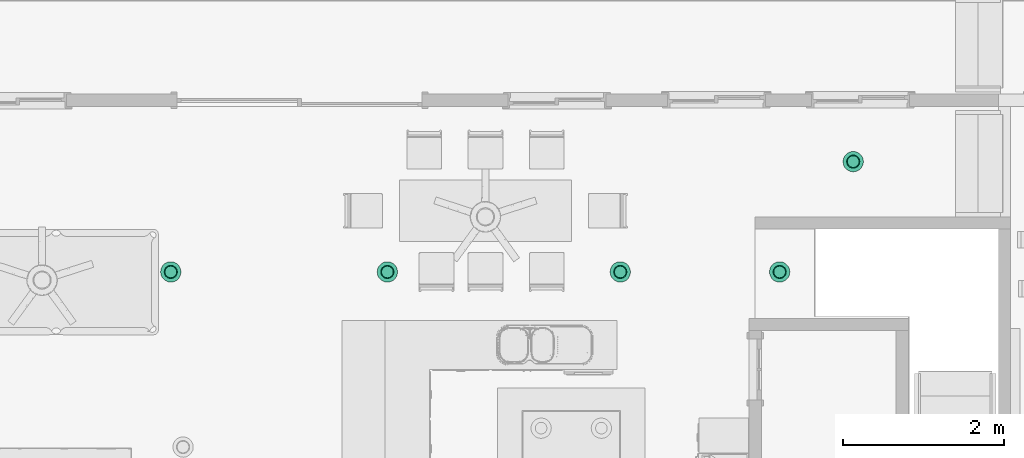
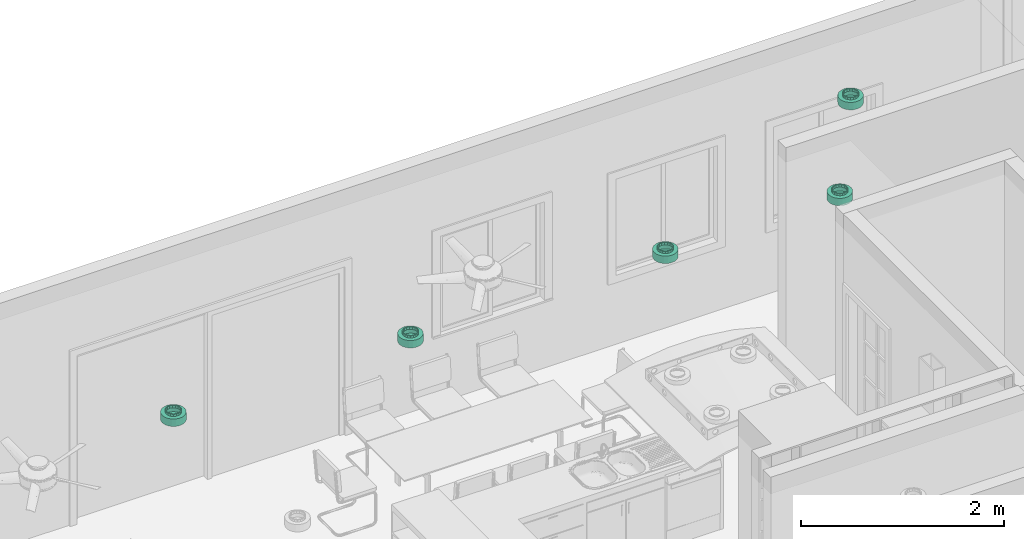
# One storey, part 16 of 21: 5 flow terminals.
"""IFC2X3 building model written with IfcOpenShell, lengths in feet."""

from ifc_helpers import new_model, entity, si_unit, converted_unit, derived_unit, direction, frame, origin, place, context, subcontext, project, spatial, faceted_brep, source, transform, mapped, material, material_list, type_object, type_shapes, element, save


model = new_model("IFC2X3")

# Units and contexts
model_context = context("Model", 3, precision=0.0001, world=origin(), true_north=direction((6.12303176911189e-17, 1.0)))
body_context = subcontext(model_context, "Body", "Model", "MODEL_VIEW")
ifc_project = project(units=[converted_unit("LENGTHUNIT", "FOOT", entity("IfcRatioMeasure", 0.3048), si_unit("LENGTHUNIT", "METRE"), dimensions=[1, 0, 0, 0, 0, 0, 0]), converted_unit("AREAUNIT", "SQUARE FOOT", entity("IfcRatioMeasure", 0.09290304), si_unit("AREAUNIT", "SQUARE_METRE"), dimensions=[2, 0, 0, 0, 0, 0, 0]), converted_unit("VOLUMEUNIT", "CUBIC FOOT", entity("IfcRatioMeasure", 0.028316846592), si_unit("VOLUMEUNIT", "CUBIC_METRE"), dimensions=[3, 0, 0, 0, 0, 0, 0]), converted_unit("PLANEANGLEUNIT", "DEGREE", entity("IfcRatioMeasure", 0.0174532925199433), si_unit("PLANEANGLEUNIT", "RADIAN"), dimensions=[0, 0, 0, 0, 0, 0, 0]), si_unit("MASSUNIT", "GRAM", prefix="KILO"), derived_unit("MASSDENSITYUNIT", [(si_unit("MASSUNIT", "GRAM", prefix="KILO"), 1), (si_unit("LENGTHUNIT", "METRE"), -3)]), si_unit("TIMEUNIT", "SECOND"), si_unit("FREQUENCYUNIT", "HERTZ"), si_unit("THERMODYNAMICTEMPERATUREUNIT", "DEGREE_CELSIUS"), derived_unit("THERMALTRANSMITTANCEUNIT", [(si_unit("MASSUNIT", "GRAM", prefix="KILO"), 1), (si_unit("THERMODYNAMICTEMPERATUREUNIT", "KELVIN"), -1), (si_unit("TIMEUNIT", "SECOND"), -3)]), derived_unit("VOLUMETRICFLOWRATEUNIT", [(si_unit("LENGTHUNIT", "METRE"), 3), (si_unit("TIMEUNIT", "SECOND"), -1)]), si_unit("ELECTRICCURRENTUNIT", "AMPERE"), si_unit("ELECTRICVOLTAGEUNIT", "VOLT"), si_unit("POWERUNIT", "WATT"), si_unit("FORCEUNIT", "NEWTON"), si_unit("ILLUMINANCEUNIT", "LUX"), si_unit("LUMINOUSFLUXUNIT", "LUMEN"), si_unit("LUMINOUSINTENSITYUNIT", "CANDELA"), derived_unit("USERDEFINED", [(si_unit("MASSUNIT", "GRAM", prefix="KILO"), -1), (si_unit("LENGTHUNIT", "METRE"), -2), (si_unit("TIMEUNIT", "SECOND"), 3), (si_unit("LUMINOUSFLUXUNIT", "LUMEN"), 1)]), derived_unit("LINEARVELOCITYUNIT", [(si_unit("LENGTHUNIT", "METRE"), 1), (si_unit("TIMEUNIT", "SECOND"), -1)]), si_unit("PRESSUREUNIT", "PASCAL"), derived_unit("USERDEFINED", [(si_unit("LENGTHUNIT", "METRE"), -2), (si_unit("MASSUNIT", "GRAM", prefix="KILO"), 1), (si_unit("TIMEUNIT", "SECOND"), -2)])], contexts=[model_context])

# Site, building, storey
site_placement = place(None, origin())
site = spatial("IfcSite", under=ifc_project, at=site_placement, Name="表面", CompositionType="ELEMENT")
building_placement = place(site_placement, origin())
building = spatial("IfcBuilding", under=site, at=building_placement, CompositionType="ELEMENT")
storey_placement = place(building_placement, origin())
storey = spatial("IfcBuildingStorey", under=building, at=storey_placement, Name="Level 1", CompositionType="ELEMENT", Elevation=0.0)

# Flow terminals
ifc_material_1 = material(Name="Metal - Paint Finish - Dark Gray, Matte")
ifc_material_2 = material(Name="Glass - White, High Luminance")
ifc_material_list_1 = material_list([ifc_material_1, ifc_material_2])
ifc_material_list_2 = material_list([ifc_material_1, ifc_material_2])
light_fixture_type = type_object("IfcLightFixtureType", Name="100W - 120V", PredefinedType="NOTDEFINED", material=ifc_material_list_2)
shared_shape = source(origin(), body_context, "Body", "Brep", [
    faceted_brep([(0.557291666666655, 0.187326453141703, 0.374999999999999), (0.598651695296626, 0.245098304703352, 0.374999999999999), (0.558098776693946, 0.218001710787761, 0.374999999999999), (0.629345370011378, 0.247786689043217, 0.374999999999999), (0.517545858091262, 0.190905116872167, 0.374999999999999), (0.468904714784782, 0.155156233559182, 0.374999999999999), (0.625748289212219, 0.285651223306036, 0.374999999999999), (0.65284488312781, 0.326204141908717, 0.374999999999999), (0.676375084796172, 0.329244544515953, 0.374999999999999), (0.6623599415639, 0.374039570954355, 0.374999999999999), (0.671874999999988, 0.42187499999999, 0.374999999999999), (0.692708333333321, 0.421874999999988, 0.374999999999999), (0.676375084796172, 0.514505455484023, 0.374999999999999), (0.662359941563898, 0.469710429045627, 0.374999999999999), (0.652844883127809, 0.517545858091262, 0.374999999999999), (0.629345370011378, 0.595963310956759, 0.374999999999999), (0.625748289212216, 0.558098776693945, 0.374999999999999), (0.598651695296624, 0.598651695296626, 0.374999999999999), (0.557291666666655, 0.656423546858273, 0.374999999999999), (0.55809877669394, 0.625748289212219, 0.374999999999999), (0.517545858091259, 0.65284488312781, 0.374999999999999), (0.468904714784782, 0.688593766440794, 0.374999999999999), (0.469710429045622, 0.662359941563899, 0.374999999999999), (0.421874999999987, 0.671874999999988, 0.374999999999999), (0.374845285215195, 0.688593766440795, 0.374999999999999), (0.374039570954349, 0.662359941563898, 0.374999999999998), (0.326204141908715, 0.652844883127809, 0.374999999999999), (0.286458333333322, 0.656423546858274, 0.374999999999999), (0.285651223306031, 0.625748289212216, 0.374999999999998), (0.245098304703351, 0.598651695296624, 0.374999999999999), (0.214404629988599, 0.59596331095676, 0.374999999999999), (0.218001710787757, 0.558098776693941, 0.374999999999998), (0.190905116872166, 0.51754585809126, 0.374999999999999), (0.167374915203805, 0.514505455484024, 0.374999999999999), (0.181390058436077, 0.469710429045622, 0.374999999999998), (0.171874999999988, 0.421874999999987, 0.374999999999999), (0.151041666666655, 0.421874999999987, 0.374999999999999), (0.167374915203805, 0.329244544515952, 0.374999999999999), (0.181390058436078, 0.374039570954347, 0.374999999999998), (0.190905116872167, 0.326204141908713, 0.374999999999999), (0.214404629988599, 0.247786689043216, 0.374999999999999), (0.218001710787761, 0.28565122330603, 0.374999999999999), (0.245098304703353, 0.245098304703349, 0.374999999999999), (0.286458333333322, 0.187326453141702, 0.374999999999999), (0.285651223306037, 0.218001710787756, 0.374999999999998), (0.326204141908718, 0.190905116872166, 0.374999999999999), (0.374845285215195, 0.155156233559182, 0.374999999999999), (0.42187499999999, 0.171874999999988, 0.374999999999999), (0.374039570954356, 0.181390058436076, 0.374999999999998), (0.469710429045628, 0.181390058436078, 0.374999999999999), (0.557291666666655, 0.656423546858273, 0.291666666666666), (0.598651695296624, 0.598651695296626, 0.291666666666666), (0.55809877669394, 0.625748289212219, 0.291666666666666), (0.629345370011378, 0.595963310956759, 0.291666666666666), (0.517545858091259, 0.65284488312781, 0.291666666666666), (0.468904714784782, 0.688593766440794, 0.291666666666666), (0.625748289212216, 0.558098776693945, 0.291666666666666), (0.652844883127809, 0.517545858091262, 0.291666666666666), (0.676375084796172, 0.514505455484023, 0.291666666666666), (0.662359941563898, 0.469710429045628, 0.291666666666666), (0.671874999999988, 0.42187499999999, 0.291666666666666), (0.692708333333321, 0.421874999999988, 0.291666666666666), (0.676375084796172, 0.329244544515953, 0.291666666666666), (0.659760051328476, 0.36096904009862, 0.291666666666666), (0.65284488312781, 0.326204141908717, 0.291666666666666), (0.629345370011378, 0.247786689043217, 0.291666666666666), (0.625748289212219, 0.285651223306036, 0.291666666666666), (0.598651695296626, 0.245098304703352, 0.291666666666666), (0.557291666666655, 0.187326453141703, 0.291666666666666), (0.558098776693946, 0.218001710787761, 0.291666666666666), (0.517545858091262, 0.190905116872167, 0.291666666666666), (0.468904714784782, 0.155156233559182, 0.291666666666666), (0.469710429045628, 0.181390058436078, 0.291666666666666), (0.42187499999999, 0.171874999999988, 0.291666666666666), (0.374845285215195, 0.155156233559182, 0.291666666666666), (0.374039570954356, 0.181390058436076, 0.291666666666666), (0.326204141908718, 0.190905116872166, 0.291666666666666), (0.286458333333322, 0.187326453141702, 0.291666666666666), (0.285651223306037, 0.218001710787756, 0.291666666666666), (0.245098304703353, 0.245098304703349, 0.291666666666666), (0.214404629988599, 0.247786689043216, 0.291666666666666), (0.218001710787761, 0.28565122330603, 0.291666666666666), (0.190905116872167, 0.326204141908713, 0.291666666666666), (0.167374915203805, 0.329244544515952, 0.291666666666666), (0.181390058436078, 0.374039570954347, 0.291666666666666), (0.171874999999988, 0.421874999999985, 0.291666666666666), (0.151041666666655, 0.421874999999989, 0.291666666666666), (0.167374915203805, 0.514505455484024, 0.291666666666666), (0.183989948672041, 0.482780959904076, 0.291666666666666), (0.190905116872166, 0.51754585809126, 0.291666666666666), (0.214404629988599, 0.59596331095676, 0.291666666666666), (0.218001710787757, 0.558098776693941, 0.291666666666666), (0.245098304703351, 0.598651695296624, 0.291666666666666), (0.286458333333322, 0.656423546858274, 0.291666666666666), (0.285651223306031, 0.625748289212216, 0.291666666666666), (0.326204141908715, 0.652844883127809, 0.291666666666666), (0.374845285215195, 0.688593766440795, 0.291666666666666), (0.421874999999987, 0.671874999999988, 0.291666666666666), (0.374039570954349, 0.662359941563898, 0.291666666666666), (0.469710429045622, 0.662359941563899, 0.291666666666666)], [[[0, 1, 2]], [[1, 0, 3]], [[0, 2, 4]], [[4, 5, 0]], [[3, 6, 1]], [[3, 7, 6]], [[7, 3, 8]], [[8, 9, 7]], [[8, 10, 9]], [[10, 8, 11]], [[10, 11, 12]], [[12, 13, 10]], [[12, 14, 13]], [[15, 14, 12]], [[15, 16, 14]], [[15, 17, 16]], [[18, 17, 15]], [[18, 19, 17]], [[18, 20, 19]], [[21, 20, 18]], [[21, 22, 20]], [[21, 23, 22]], [[24, 23, 21]], [[24, 25, 23]], [[24, 26, 25]], [[27, 26, 24]], [[27, 28, 26]], [[27, 29, 28]], [[29, 27, 30]], [[30, 31, 29]], [[30, 32, 31]], [[32, 30, 33]], [[33, 34, 32]], [[33, 35, 34]], [[36, 35, 33]], [[37, 35, 36]], [[37, 38, 35]], [[37, 39, 38]], [[39, 37, 40]], [[40, 41, 39]], [[40, 42, 41]], [[42, 40, 43]], [[43, 44, 42]], [[43, 45, 44]], [[45, 43, 46]], [[47, 46, 5]], [[46, 47, 48]], [[46, 48, 45]], [[5, 4, 49]], [[5, 49, 47]], [[50, 51, 52]], [[51, 50, 53]], [[50, 52, 54]], [[54, 55, 50]], [[53, 56, 51]], [[53, 57, 56]], [[57, 53, 58]], [[58, 59, 57]], [[58, 60, 59]], [[60, 58, 61]], [[60, 61, 62]], [[62, 63, 60]], [[62, 64, 63]], [[65, 64, 62]], [[65, 66, 64]], [[65, 67, 66]], [[68, 67, 65]], [[68, 69, 67]], [[68, 70, 69]], [[71, 70, 68]], [[71, 72, 70]], [[71, 73, 72]], [[74, 73, 71]], [[74, 75, 73]], [[74, 76, 75]], [[77, 76, 74]], [[77, 78, 76]], [[77, 79, 78]], [[79, 77, 80]], [[80, 81, 79]], [[80, 82, 81]], [[82, 80, 83]], [[83, 84, 82]], [[83, 85, 84]], [[86, 85, 83]], [[87, 85, 86]], [[87, 88, 85]], [[87, 89, 88]], [[89, 87, 90]], [[90, 91, 89]], [[90, 92, 91]], [[92, 90, 93]], [[93, 94, 92]], [[93, 95, 94]], [[95, 93, 96]], [[97, 96, 55]], [[96, 97, 98]], [[96, 98, 95]], [[55, 54, 99]], [[55, 99, 97]], [[37, 36, 86, 83]], [[43, 40, 80, 77]], [[83, 80, 40, 37]], [[77, 74, 46, 43]], [[74, 71, 5, 46]], [[0, 5, 71, 68]], [[8, 3, 65, 62]], [[68, 65, 3, 0]], [[62, 61, 11, 8]], [[12, 11, 61, 58]], [[18, 15, 53, 50]], [[58, 53, 15, 12]], [[50, 55, 21, 18]], [[55, 96, 24, 21]], [[27, 24, 96, 93]], [[87, 33, 30, 90]], [[90, 30, 27, 93]], [[33, 87, 86, 36]], [[34, 35, 85, 88, 89, 32]], [[89, 91, 92, 29, 31, 32]], [[59, 60, 10, 13, 14, 57]], [[92, 94, 95, 26, 28, 29]], [[23, 25, 26, 95, 98, 97]], [[97, 99, 54, 20, 22, 23]], [[16, 17, 51, 56, 57, 14]], [[54, 52, 51, 17, 19, 20]], [[9, 10, 60, 63, 64, 7]], [[64, 66, 67, 1, 6, 7]], [[84, 85, 35, 38, 39, 82]], [[67, 69, 70, 4, 2, 1]], [[47, 49, 4, 70, 72, 73]], [[73, 75, 76, 45, 48, 47]], [[41, 42, 79, 81, 82, 39]], [[76, 78, 79, 42, 44, 45]]]),
    faceted_brep([(0.671874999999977, 0.421874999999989, 0.291666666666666), (0.838541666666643, 0.421874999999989, 0.291666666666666), (0.81814854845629, 0.550632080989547, 0.291666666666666), (0.818148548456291, 0.293117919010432, 0.291666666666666), (0.659760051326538, 0.360969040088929, 0.291666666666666), (0.662359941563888, 0.469710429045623, 0.291666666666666), (0.6528448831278, 0.326204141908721, 0.291666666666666), (0.758965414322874, 0.176964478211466, 0.291666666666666), (0.625748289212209, 0.28565122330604, 0.291666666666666), (0.598651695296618, 0.24509830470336, 0.291666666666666), (0.666785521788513, 0.084784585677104, 0.291666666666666), (0.558098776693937, 0.218001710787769, 0.291666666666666), (0.517545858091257, 0.190905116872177, 0.291666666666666), (0.550632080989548, 0.025601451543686, 0.291666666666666), (0.469710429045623, 0.181390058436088, 0.291666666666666), (0.421874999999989, 0.171874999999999, 0.291666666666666), (0.42187499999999, 0.00520833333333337, 0.291666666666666), (0.293117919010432, 0.0256014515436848, 0.291666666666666), (0.374039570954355, 0.181390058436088, 0.291666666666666), (0.326204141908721, 0.190905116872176, 0.291666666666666), (0.176964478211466, 0.0847845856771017, 0.291666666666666), (0.285651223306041, 0.218001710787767, 0.291666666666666), (0.24509830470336, 0.245098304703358, 0.291666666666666), (0.0847845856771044, 0.176964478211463, 0.291666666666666), (0.218001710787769, 0.285651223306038, 0.291666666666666), (0.190905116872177, 0.326204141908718, 0.291666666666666), (0.0256014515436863, 0.293117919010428, 0.291666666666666), (0.181390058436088, 0.374039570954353, 0.291666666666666), (0.171874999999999, 0.421874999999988, 0.291666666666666), (0.00520833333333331, 0.421874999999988, 0.291666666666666), (0.0256014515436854, 0.550632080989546, 0.291666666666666), (0.183989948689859, 0.482780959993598, 0.291666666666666), (0.190905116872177, 0.517545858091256, 0.291666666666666), (0.0847845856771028, 0.666785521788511, 0.291666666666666), (0.218001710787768, 0.558098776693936, 0.291666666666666), (0.245098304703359, 0.598651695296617, 0.291666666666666), (0.176964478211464, 0.758965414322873, 0.291666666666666), (0.285651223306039, 0.625748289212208, 0.291666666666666), (0.32620414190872, 0.652844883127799, 0.291666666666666), (0.29311791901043, 0.81814854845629, 0.291666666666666), (0.374039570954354, 0.662359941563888, 0.291666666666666), (0.421874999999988, 0.671874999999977, 0.291666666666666), (0.421874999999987, 0.838541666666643, 0.291666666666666), (0.550632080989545, 0.818148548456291, 0.291666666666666), (0.469710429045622, 0.662359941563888, 0.291666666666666), (0.517545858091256, 0.6528448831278, 0.291666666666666), (0.666785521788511, 0.758965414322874, 0.291666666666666), (0.558098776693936, 0.625748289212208, 0.291666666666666), (0.598651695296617, 0.598651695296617, 0.291666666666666), (0.758965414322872, 0.666785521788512, 0.291666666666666), (0.625748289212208, 0.558098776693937, 0.291666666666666), (0.652844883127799, 0.517545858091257, 0.291666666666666), (0.0256014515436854, 0.550632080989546, 0.0), (0.00520833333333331, 0.421874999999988, 0.0), (0.0847845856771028, 0.666785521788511, 0.0), (0.176964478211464, 0.758965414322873, 0.0), (0.29311791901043, 0.818148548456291, 0.0), (0.421874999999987, 0.838541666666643, 0.0), (0.550632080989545, 0.818148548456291, 0.0), (0.666785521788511, 0.758965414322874, 0.0), (0.758965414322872, 0.666785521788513, 0.0), (0.81814854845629, 0.550632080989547, 0.0), (0.838541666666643, 0.42187499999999, 0.0), (0.818148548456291, 0.293117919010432, 0.0), (0.666785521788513, 0.0847845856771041, 0.0), (0.550632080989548, 0.025601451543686, 0.0), (0.42187499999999, 0.00520833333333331, 0.0), (0.758965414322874, 0.176964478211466, 0.0), (0.293117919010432, 0.0256014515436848, 0.0), (0.176964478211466, 0.0847845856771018, 0.0), (0.0847845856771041, 0.176964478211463, 0.0), (0.025601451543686, 0.293117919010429, 0.0), (0.421874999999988, 0.421874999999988, 0.0), (0.808241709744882, 0.547413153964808, 0.0104166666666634), (0.421874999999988, 0.421874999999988, 0.0104166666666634), (0.828124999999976, 0.421874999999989, 0.0104166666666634), (0.7505381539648, 0.660662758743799, 0.0104166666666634), (0.660662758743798, 0.750538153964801, 0.0104166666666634), (0.547413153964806, 0.808241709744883, 0.0104166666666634), (0.421874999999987, 0.828124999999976, 0.0104166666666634), (0.296336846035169, 0.808241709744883, 0.0104166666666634), (0.183087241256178, 0.750538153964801, 0.0104166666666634), (0.0932118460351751, 0.660662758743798, 0.0104166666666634), (0.0355082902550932, 0.547413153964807, 0.0104166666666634), (0.0156249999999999, 0.421874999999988, 0.0104166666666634), (0.0355082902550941, 0.296336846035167, 0.0104166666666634), (0.0932118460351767, 0.183087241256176, 0.0104166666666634), (0.18308724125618, 0.093211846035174, 0.0104166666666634), (0.296336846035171, 0.0355082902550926, 0.0104166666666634), (0.42187499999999, 0.0156249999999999, 0.0104166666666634), (0.547413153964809, 0.0355082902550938, 0.0104166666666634), (0.6606627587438, 0.0932118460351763, 0.0104166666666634), (0.750538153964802, 0.183087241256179, 0.0104166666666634), (0.808241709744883, 0.296336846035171, 0.0104166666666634), (0.0355082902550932, 0.547413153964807, 0.281249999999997), (0.0156249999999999, 0.421874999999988, 0.281249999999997), (0.0932118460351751, 0.660662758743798, 0.281249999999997), (0.183087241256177, 0.750538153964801, 0.281249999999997), (0.296336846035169, 0.808241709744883, 0.281249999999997), (0.421874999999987, 0.828124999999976, 0.281249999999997), (0.660662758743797, 0.750538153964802, 0.281249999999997), (0.547413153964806, 0.808241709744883, 0.281249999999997), (0.808241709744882, 0.547413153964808, 0.281249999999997), (0.7505381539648, 0.660662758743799, 0.281249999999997), (0.828124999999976, 0.42187499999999, 0.281249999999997), (0.808241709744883, 0.296336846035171, 0.281249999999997), (0.547413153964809, 0.0355082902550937, 0.281249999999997), (0.6606627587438, 0.0932118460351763, 0.281249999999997), (0.42187499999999, 0.0156249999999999, 0.281249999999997), (0.750538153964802, 0.183087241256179, 0.281249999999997), (0.183087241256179, 0.0932118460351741, 0.281249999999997), (0.296336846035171, 0.0355082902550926, 0.281249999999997), (0.0355082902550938, 0.296336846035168, 0.281249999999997), (0.0932118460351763, 0.183087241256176, 0.281249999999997), (0.66145833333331, 0.421874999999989, 0.281249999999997), (0.650878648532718, 0.475062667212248, 0.281249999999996), (0.643221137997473, 0.513559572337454, 0.281249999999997), (0.650878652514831, 0.368687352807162, 0.281249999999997), (0.643221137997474, 0.330190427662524, 0.281249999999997), (0.617253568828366, 0.291327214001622, 0.281249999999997), (0.591285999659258, 0.25246400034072, 0.281249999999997), (0.552422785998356, 0.226496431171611, 0.281249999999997), (0.513559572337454, 0.200528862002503, 0.281249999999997), (0.467717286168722, 0.191410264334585, 0.281249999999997), (0.421874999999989, 0.182291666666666, 0.281249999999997), (0.376032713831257, 0.191410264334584, 0.281249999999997), (0.330190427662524, 0.200528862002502, 0.281249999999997), (0.291327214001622, 0.22649643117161, 0.281249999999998), (0.25246400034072, 0.252464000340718, 0.281249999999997), (0.226496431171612, 0.29132721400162, 0.281249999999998), (0.200528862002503, 0.330190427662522, 0.281249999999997), (0.191410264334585, 0.376032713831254, 0.281249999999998), (0.182291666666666, 0.421874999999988, 0.281249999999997), (0.192871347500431, 0.47506264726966, 0.281249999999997), (0.200528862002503, 0.513559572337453, 0.281249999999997), (0.226496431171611, 0.552422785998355, 0.281249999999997), (0.252464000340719, 0.591285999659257, 0.281249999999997), (0.291327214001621, 0.617253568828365, 0.281249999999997), (0.330190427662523, 0.643221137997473, 0.281249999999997), (0.376032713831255, 0.652339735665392, 0.281249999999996), (0.421874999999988, 0.66145833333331, 0.281249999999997), (0.46771728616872, 0.652339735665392, 0.281249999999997), (0.513559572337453, 0.643221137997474, 0.281249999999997), (0.591285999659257, 0.591285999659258, 0.281249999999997), (0.552422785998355, 0.617253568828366, 0.281249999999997), (0.617253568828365, 0.552422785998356, 0.281249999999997), (0.191410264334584, 0.467717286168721, 0.375), (0.182291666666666, 0.421874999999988, 0.375), (0.200528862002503, 0.513559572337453, 0.375), (0.252464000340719, 0.591285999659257, 0.375), (0.226496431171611, 0.552422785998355, 0.375), (0.330190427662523, 0.643221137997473, 0.375), (0.291327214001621, 0.617253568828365, 0.375), (0.421874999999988, 0.66145833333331, 0.375), (0.376032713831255, 0.652339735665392, 0.375), (0.552422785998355, 0.617253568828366, 0.375), (0.513559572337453, 0.643221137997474, 0.375), (0.591285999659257, 0.591285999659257, 0.375), (0.643221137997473, 0.513559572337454, 0.375), (0.617253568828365, 0.552422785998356, 0.375), (0.46771728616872, 0.652339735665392, 0.375), (0.652339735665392, 0.467717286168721, 0.375), (0.66145833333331, 0.421874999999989, 0.375), (0.652339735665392, 0.376032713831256, 0.375), (0.643221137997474, 0.330190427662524, 0.375), (0.591285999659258, 0.25246400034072, 0.375), (0.617253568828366, 0.291327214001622, 0.375), (0.513559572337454, 0.200528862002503, 0.375), (0.552422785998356, 0.226496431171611, 0.375), (0.421874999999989, 0.182291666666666, 0.375), (0.467717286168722, 0.191410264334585, 0.375), (0.200528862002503, 0.330190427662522, 0.375), (0.192871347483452, 0.368687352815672, 0.375), (0.25246400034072, 0.252464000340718, 0.375), (0.291327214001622, 0.22649643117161, 0.375), (0.330190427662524, 0.200528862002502, 0.375), (0.226496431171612, 0.29132721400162, 0.375), (0.376032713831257, 0.191410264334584, 0.375), (0.671874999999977, 0.421874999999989, 0.375), (0.659760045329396, 0.482780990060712, 0.375), (0.652844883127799, 0.517545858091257, 0.375), (0.662359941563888, 0.374039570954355, 0.375), (0.6528448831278, 0.326204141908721, 0.375), (0.625748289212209, 0.28565122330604, 0.375), (0.598651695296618, 0.24509830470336, 0.375), (0.558098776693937, 0.218001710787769, 0.375), (0.517545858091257, 0.190905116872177, 0.375), (0.469710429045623, 0.181390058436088, 0.375), (0.421874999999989, 0.171874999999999, 0.375), (0.374039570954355, 0.181390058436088, 0.375), (0.326204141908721, 0.190905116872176, 0.375), (0.285651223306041, 0.218001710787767, 0.375), (0.24509830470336, 0.245098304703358, 0.375), (0.218001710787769, 0.285651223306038, 0.375), (0.190905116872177, 0.326204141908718, 0.375), (0.183989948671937, 0.360969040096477, 0.375), (0.171874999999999, 0.421874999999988, 0.375), (0.181390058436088, 0.469710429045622, 0.375), (0.190905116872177, 0.517545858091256, 0.375), (0.218001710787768, 0.558098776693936, 0.375), (0.245098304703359, 0.598651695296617, 0.375), (0.285651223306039, 0.625748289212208, 0.375), (0.32620414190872, 0.652844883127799, 0.375), (0.374039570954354, 0.662359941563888, 0.375), (0.421874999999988, 0.671874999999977, 0.375), (0.469710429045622, 0.662359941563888, 0.375), (0.517545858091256, 0.6528448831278, 0.375), (0.558098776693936, 0.625748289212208, 0.375), (0.598651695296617, 0.598651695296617, 0.375), (0.625748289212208, 0.558098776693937, 0.375)], [[[0, 1, 2]], [[0, 3, 1]], [[3, 0, 4]], [[2, 5, 0]], [[3, 4, 6]], [[7, 3, 6]], [[7, 6, 8]], [[7, 8, 9]], [[10, 7, 9]], [[10, 9, 11]], [[10, 11, 12]], [[10, 12, 13]], [[13, 12, 14]], [[13, 14, 15]], [[16, 13, 15]], [[16, 15, 17]], [[17, 15, 18]], [[17, 18, 19]], [[17, 19, 20]], [[20, 19, 21]], [[20, 21, 22]], [[23, 20, 22]], [[23, 22, 24]], [[23, 24, 25]], [[25, 26, 23]], [[26, 25, 27]], [[26, 27, 28]], [[29, 26, 28]], [[30, 29, 28]], [[30, 28, 31]], [[30, 31, 32]], [[30, 32, 33]], [[33, 32, 34]], [[33, 34, 35]], [[36, 33, 35]], [[36, 35, 37]], [[36, 37, 38]], [[39, 36, 38]], [[39, 38, 40]], [[39, 40, 41]], [[42, 39, 41]], [[42, 41, 43]], [[43, 41, 44]], [[43, 44, 45]], [[46, 43, 45]], [[46, 45, 47]], [[46, 47, 48]], [[46, 48, 49]], [[49, 48, 50]], [[49, 50, 51]], [[49, 51, 2]], [[2, 51, 5]], [[52, 53, 29, 30]], [[30, 33, 54, 52]], [[36, 55, 54, 33]], [[55, 36, 39, 56]], [[56, 39, 42, 57]], [[58, 43, 46, 59]], [[60, 49, 2, 61]], [[46, 49, 60, 59]], [[61, 2, 1, 62]], [[43, 58, 57, 42]], [[1, 3, 63, 62]], [[64, 10, 13, 65]], [[16, 66, 65, 13]], [[63, 3, 7, 67]], [[10, 64, 67, 7]], [[68, 17, 20, 69]], [[70, 23, 26, 71]], [[20, 23, 70, 69]], [[71, 26, 29, 53]], [[17, 68, 66, 16]], [[62, 72, 61]], [[62, 63, 72]], [[72, 63, 67]], [[72, 67, 64]], [[72, 64, 65]], [[65, 66, 72]], [[68, 72, 66]], [[72, 68, 69]], [[72, 69, 70]], [[71, 72, 70]], [[72, 71, 53]], [[72, 53, 52]], [[72, 52, 54]], [[54, 55, 72]], [[72, 55, 56]], [[56, 57, 72]], [[72, 57, 58]], [[59, 72, 58]], [[72, 59, 60]], [[61, 72, 60]], [[73, 74, 75]], [[76, 74, 73]], [[76, 77, 74]], [[78, 74, 77]], [[78, 79, 74]], [[74, 79, 80]], [[80, 81, 74]], [[74, 81, 82]], [[82, 83, 74]], [[83, 84, 74]], [[84, 85, 74]], [[86, 74, 85]], [[86, 87, 74]], [[87, 88, 74]], [[89, 74, 88]], [[74, 89, 90]], [[90, 91, 74]], [[91, 92, 74]], [[92, 93, 74]], [[74, 93, 75]], [[94, 95, 84, 83]], [[82, 96, 94, 83]], [[96, 82, 81, 97]], [[81, 80, 98, 97]], [[98, 80, 79, 99]], [[100, 101, 78, 77]], [[102, 103, 76, 73]], [[77, 76, 103, 100]], [[104, 102, 73, 75]], [[79, 78, 101, 99]], [[105, 104, 75, 93]], [[106, 107, 91, 90]], [[108, 106, 90, 89]], [[93, 92, 109, 105]], [[109, 92, 91, 107]], [[110, 111, 88, 87]], [[112, 113, 86, 85]], [[87, 86, 113, 110]], [[95, 112, 85, 84]], [[89, 88, 111, 108]], [[102, 104, 114]], [[102, 114, 115]], [[102, 115, 116]], [[102, 116, 103]], [[104, 105, 114]], [[105, 117, 114]], [[105, 118, 117]], [[118, 105, 109]], [[109, 119, 118]], [[109, 120, 119]], [[120, 109, 107]], [[107, 121, 120]], [[107, 122, 121]], [[106, 122, 107]], [[106, 123, 122]], [[106, 124, 123]], [[124, 106, 108]], [[111, 124, 108]], [[111, 125, 124]], [[111, 126, 125]], [[110, 126, 111]], [[110, 127, 126]], [[110, 128, 127]], [[128, 110, 113]], [[113, 129, 128]], [[113, 130, 129]], [[113, 112, 130]], [[112, 131, 130]], [[112, 132, 131]], [[132, 112, 95]], [[132, 95, 94]], [[94, 133, 132]], [[94, 134, 133]], [[96, 134, 94]], [[96, 135, 134]], [[96, 136, 135]], [[136, 96, 97]], [[97, 137, 136]], [[97, 138, 137]], [[138, 97, 98]], [[98, 139, 138]], [[98, 140, 139]], [[140, 98, 99]], [[101, 140, 99]], [[101, 141, 140]], [[101, 142, 141]], [[142, 101, 100]], [[103, 143, 100]], [[100, 143, 144]], [[100, 144, 142]], [[103, 116, 145]], [[103, 145, 143]], [[146, 147, 132, 133, 134, 148]], [[136, 149, 150, 148, 134, 135]], [[136, 137, 138, 151, 152, 149]], [[151, 138, 139, 140, 153, 154]], [[155, 156, 142, 144, 143, 157]], [[116, 158, 159, 157, 143, 145]], [[153, 140, 141, 142, 156, 160]], [[161, 158, 116, 115, 114, 162]], [[163, 162, 114, 117, 118, 164]], [[120, 165, 166, 164, 118, 119]], [[120, 121, 122, 167, 168, 165]], [[123, 124, 169, 170, 167, 122]], [[171, 130, 131, 132, 147, 172]], [[128, 173, 174, 175, 126, 127]], [[128, 129, 130, 171, 176, 173]], [[175, 177, 169, 124, 125, 126]], [[162, 178, 179]], [[162, 179, 180]], [[180, 161, 162]], [[162, 181, 178]], [[162, 182, 181]], [[182, 162, 163]], [[182, 163, 164]], [[164, 183, 182]], [[164, 184, 183]], [[184, 164, 166]], [[184, 166, 165]], [[165, 185, 184]], [[165, 186, 185]], [[186, 165, 168]], [[186, 168, 167]], [[167, 187, 186]], [[167, 188, 187]], [[188, 167, 170]], [[188, 170, 169]], [[188, 169, 177]], [[188, 177, 175]], [[175, 189, 188]], [[175, 190, 189]], [[190, 175, 174]], [[190, 174, 173]], [[173, 191, 190]], [[173, 192, 191]], [[192, 173, 176]], [[192, 176, 171]], [[171, 193, 192]], [[171, 194, 193]], [[194, 171, 172]], [[194, 172, 147]], [[147, 195, 194]], [[147, 196, 195]], [[147, 197, 196]], [[147, 198, 197]], [[198, 147, 146]], [[198, 146, 148]], [[148, 199, 198]], [[148, 200, 199]], [[200, 148, 150]], [[200, 150, 149]], [[149, 201, 200]], [[149, 202, 201]], [[202, 149, 152]], [[202, 152, 151]], [[151, 203, 202]], [[151, 204, 203]], [[204, 151, 154]], [[204, 154, 153]], [[204, 153, 160]], [[204, 160, 156]], [[156, 205, 204]], [[156, 206, 205]], [[206, 156, 155]], [[206, 155, 157]], [[157, 207, 206]], [[157, 208, 207]], [[208, 157, 159]], [[208, 159, 158]], [[158, 180, 209]], [[180, 158, 161]], [[158, 209, 208]], [[198, 32, 31, 28, 196, 197]], [[199, 200, 35, 34, 32, 198]], [[200, 201, 202, 38, 37, 35]], [[40, 38, 202, 203, 204, 41]], [[47, 45, 206, 207, 208, 48]], [[178, 0, 5, 51, 180, 179]], [[208, 209, 180, 51, 50, 48]], [[45, 44, 41, 204, 205, 206]], [[182, 6, 4, 0, 178, 181]], [[183, 184, 9, 8, 6, 182]], [[184, 185, 186, 12, 11, 9]], [[187, 188, 15, 14, 12, 186]], [[195, 196, 28, 27, 25, 194]], [[191, 192, 22, 21, 19, 190]], [[192, 193, 194, 25, 24, 22]], [[19, 18, 15, 188, 189, 190]]]),
])
type_shapes(light_fixture_type, [shared_shape])
flow_terminal_1_placement = place(storey_placement, frame((6.37654524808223, 9.26051869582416, 8.625)))
element("IfcFlowTerminal", 1, at=flow_terminal_1_placement, inside=storey, type_object=light_fixture_type, material=ifc_material_list_1, Name="Ceiling Light - Flat Round:100W - 120V", ObjectType="100W - 120V", context=body_context, shape_type="MappedRepresentation", body=[
    mapped(shared_shape, transform((0.0, 0.0, 0.0), scale=1.0)),
])
ifc_material_list_3 = material_list([ifc_material_1, ifc_material_2])
flow_terminal_2_placement = place(storey_placement, frame((-9.62345475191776, 9.26051869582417, 8.625)))
element("IfcFlowTerminal", 2, at=flow_terminal_2_placement, inside=storey, type_object=light_fixture_type, material=ifc_material_list_3, Name="Ceiling Light - Flat Round:100W - 120V", ObjectType="100W - 120V", context=body_context, shape_type="MappedRepresentation", body=[
    mapped(shared_shape, transform((0.0, 0.0, 0.0), scale=1.0)),
])
ifc_material_list_4 = material_list([ifc_material_1, ifc_material_2])
flow_terminal_3_placement = place(storey_placement, frame((-0.123454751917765, 9.26051869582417, 8.625)))
element("IfcFlowTerminal", 3, at=flow_terminal_3_placement, inside=storey, type_object=light_fixture_type, material=ifc_material_list_4, Name="Ceiling Light - Flat Round:100W - 120V", ObjectType="100W - 120V", context=body_context, shape_type="MappedRepresentation", body=[
    mapped(shared_shape, transform((0.0, 0.0, 0.0), scale=1.0)),
])
ifc_material_list_5 = material_list([ifc_material_1, ifc_material_2])
flow_terminal_4_placement = place(storey_placement, frame((-18.4567880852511, 9.26051869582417, 8.625)))
element("IfcFlowTerminal", 4, at=flow_terminal_4_placement, inside=storey, type_object=light_fixture_type, material=ifc_material_list_5, Name="Ceiling Light - Flat Round:100W - 120V", ObjectType="100W - 120V", context=body_context, shape_type="MappedRepresentation", body=[
    mapped(shared_shape, transform((0.0, 0.0, 0.0), scale=1.0)),
])
ifc_material_list_6 = material_list([ifc_material_1, ifc_material_2])
flow_terminal_5_placement = place(storey_placement, frame((9.37654524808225, 13.7605186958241, 8.625)))
element("IfcFlowTerminal", 5, at=flow_terminal_5_placement, inside=storey, type_object=light_fixture_type, material=ifc_material_list_6, Name="Ceiling Light - Flat Round:100W - 120V", ObjectType="100W - 120V", context=body_context, shape_type="MappedRepresentation", body=[
    mapped(shared_shape, transform((0.0, 0.0, 0.0), scale=1.0)),
])

save(model, "model.ifc")
